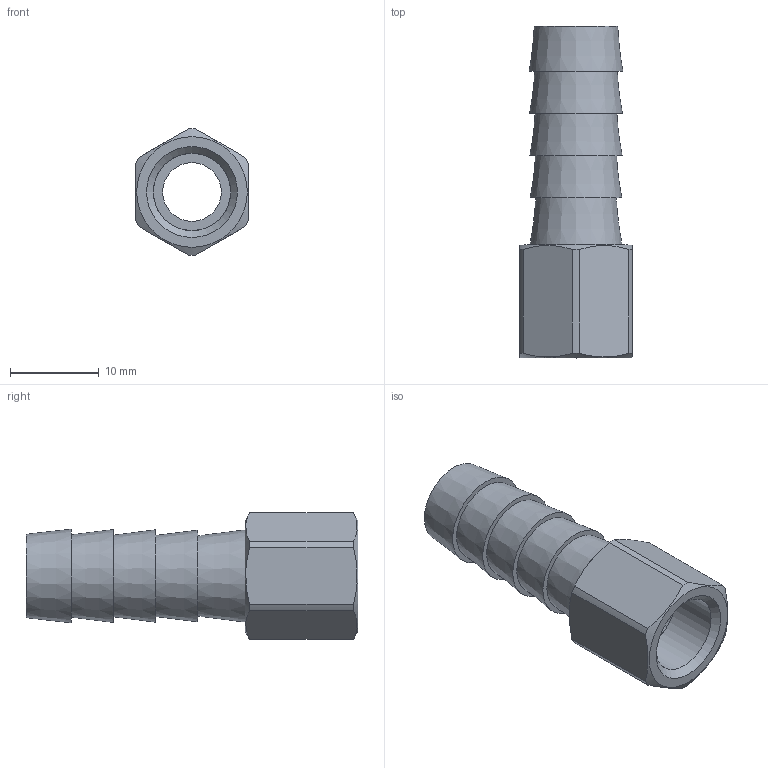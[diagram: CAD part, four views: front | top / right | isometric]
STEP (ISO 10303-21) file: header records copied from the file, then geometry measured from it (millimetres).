
FILE_DESCRIPTION(/* description */ (''),/* implementation_level */ '2;1');
FILE_NAME(/* name */ 'C:/Users/drich/Desktop/FB38-2 v1.step',/* time_stamp */ '2020-02-09T10:48:23-06:00',/* author */ (''),/* organization */ (''),/* preprocessor_version */ 'ST-DEVELOPER v18',/* originating_system */ 'Autodesk Translation Framework v8.12.0.6',/* authorisation */ '');
FILE_SCHEMA (('AUTOMOTIVE_DESIGN { 1 0 10303 214 3 1 1 }'));
Length unit declared in the file: inch
Products named in the file (2): FB38-2; 38 BARB ONLY
Assembly tree (1 placements, depth 2):
  FB38-2
    38 BARB ONLY
Bounding box: 12.7 x 37.34 x 14.22 mm (x, y, z)
Volume: 1963.3 mm3; surface area: 2522.4 mm2
Topology: 2 solids, 2 shells, 35 faces, 92 edges, 66 vertices
Faces by surface type: plane 15, cone 10, cylinder 10
Full cylindrical faces by diameter (mm): 6.604 x1, 7.112 x1, 8.661 x1, 8.712 x1
Entity records: 1191 total; most frequent: CARTESIAN_POINT 220, DIRECTION 210, ORIENTED_EDGE 184, EDGE_CURVE 92, AXIS2_PLACEMENT_3D 92, VERTEX_POINT 66, CIRCLE 54, EDGE_LOOP 44
